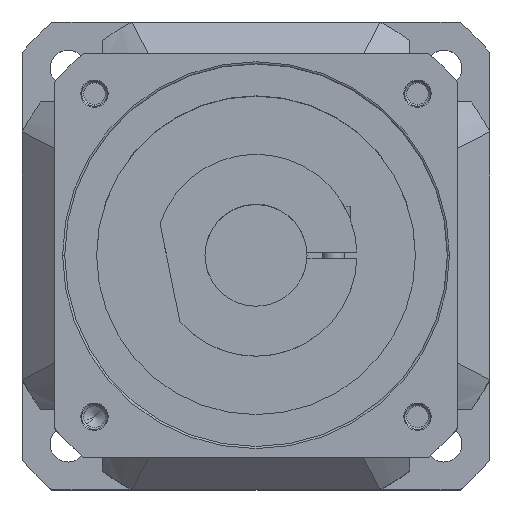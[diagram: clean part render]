
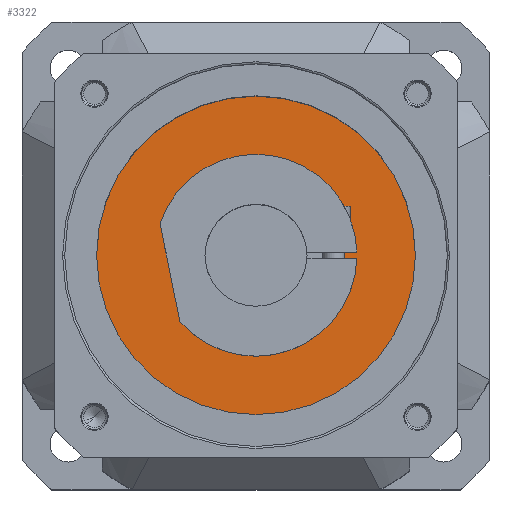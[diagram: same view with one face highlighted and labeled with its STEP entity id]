
A CAD part, top view. The second image highlights one B-rep face of the part: STEP entity #3322.
In plain terms, the highlighted planar face has unit normal (0, 0, 1) as drawn and (0, 1, 0) by its records, which use the part's own axes.
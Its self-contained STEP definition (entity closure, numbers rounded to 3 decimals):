
#1969=CARTESIAN_POINT('',(63.014,85.5,80.207));
#2002=CARTESIAN_POINT('',(80.207,85.5,63.014));
#2012=CARTESIAN_POINT('',(0.,85.5,0.));
#2013=DIRECTION('',(0.,1.,0.));
#2014=DIRECTION('',(0.,0.,1.));
#2015=AXIS2_PLACEMENT_3D('',#2012,#2013,#2014);
#2017=CARTESIAN_POINT('',(0.,85.5,0.));
#2018=DIRECTION('',(0.,1.,0.));
#2019=DIRECTION('',(0.,0.,-1.));
#2020=AXIS2_PLACEMENT_3D('',#2017,#2018,#2019);
#2022=DIRECTION('',(0.,0.,1.));
#2023=VECTOR('',#2022,4.193);
#2024=CARTESIAN_POINT('',(63.014,85.5,76.014));
#2025=LINE('',#2024,#2023);
#2026=CARTESIAN_POINT('',(0.,85.5,0.));
#2027=DIRECTION('',(0.,1.,0.));
#2028=DIRECTION('',(0.471,0.,0.882));
#2029=AXIS2_PLACEMENT_3D('',#2026,#2027,#2028);
#2031=DIRECTION('',(1.,0.,0.));
#2032=VECTOR('',#2031,96.);
#2033=CARTESIAN_POINT('',(-48.,85.5,90.));
#2034=LINE('',#2033,#2032);
#2035=CARTESIAN_POINT('',(0.,85.5,0.));
#2036=DIRECTION('',(0.,1.,0.));
#2037=DIRECTION('',(-0.618,0.,0.786));
#2038=AXIS2_PLACEMENT_3D('',#2035,#2036,#2037);
#2040=DIRECTION('',(0.,0.,-1.));
#2041=VECTOR('',#2040,4.193);
#2042=CARTESIAN_POINT('',(-63.014,85.5,80.207));
#2043=LINE('',#2042,#2041);
#2044=CARTESIAN_POINT('',(-76.014,85.5,76.014));
#2045=DIRECTION('',(0.,1.,0.));
#2046=DIRECTION('',(1.,0.,0.));
#2047=AXIS2_PLACEMENT_3D('',#2044,#2045,#2046);
#2049=DIRECTION('',(-1.,0.,0.));
#2050=VECTOR('',#2049,4.193);
#2051=CARTESIAN_POINT('',(-76.014,85.5,63.014));
#2052=LINE('',#2051,#2050);
#2053=CARTESIAN_POINT('',(0.,85.5,0.));
#2054=DIRECTION('',(0.,1.,0.));
#2055=DIRECTION('',(-0.882,0.,0.471));
#2056=AXIS2_PLACEMENT_3D('',#2053,#2054,#2055);
#2058=DIRECTION('',(0.,0.,1.));
#2059=VECTOR('',#2058,96.);
#2060=CARTESIAN_POINT('',(-90.,85.5,-48.));
#2061=LINE('',#2060,#2059);
#2062=CARTESIAN_POINT('',(0.,85.5,0.));
#2063=DIRECTION('',(0.,1.,0.));
#2064=DIRECTION('',(-0.786,0.,-0.618));
#2065=AXIS2_PLACEMENT_3D('',#2062,#2063,#2064);
#2067=DIRECTION('',(1.,0.,0.));
#2068=VECTOR('',#2067,4.193);
#2069=CARTESIAN_POINT('',(-80.207,85.5,-63.014));
#2070=LINE('',#2069,#2068);
#2071=CARTESIAN_POINT('',(-76.014,85.5,-76.014));
#2072=DIRECTION('',(0.,1.,0.));
#2073=DIRECTION('',(0.,0.,1.));
#2074=AXIS2_PLACEMENT_3D('',#2071,#2072,#2073);
#2076=DIRECTION('',(0.,0.,-1.));
#2077=VECTOR('',#2076,4.193);
#2078=CARTESIAN_POINT('',(-63.014,85.5,-76.014));
#2079=LINE('',#2078,#2077);
#2080=CARTESIAN_POINT('',(0.,85.5,0.));
#2081=DIRECTION('',(0.,1.,0.));
#2082=DIRECTION('',(-0.471,0.,-0.882));
#2083=AXIS2_PLACEMENT_3D('',#2080,#2081,#2082);
#2085=DIRECTION('',(-1.,0.,0.));
#2086=VECTOR('',#2085,96.);
#2087=CARTESIAN_POINT('',(48.,85.5,-90.));
#2088=LINE('',#2087,#2086);
#2089=CARTESIAN_POINT('',(0.,85.5,0.));
#2090=DIRECTION('',(0.,1.,0.));
#2091=DIRECTION('',(0.618,0.,-0.786));
#2092=AXIS2_PLACEMENT_3D('',#2089,#2090,#2091);
#2094=DIRECTION('',(0.,0.,1.));
#2095=VECTOR('',#2094,4.193);
#2096=CARTESIAN_POINT('',(63.014,85.5,-80.207));
#2097=LINE('',#2096,#2095);
#2098=CARTESIAN_POINT('',(76.014,85.5,-76.014));
#2099=DIRECTION('',(0.,1.,0.));
#2100=DIRECTION('',(-1.,0.,0.));
#2101=AXIS2_PLACEMENT_3D('',#2098,#2099,#2100);
#2103=DIRECTION('',(1.,0.,0.));
#2104=VECTOR('',#2103,4.193);
#2105=CARTESIAN_POINT('',(76.014,85.5,-63.014));
#2106=LINE('',#2105,#2104);
#2107=CARTESIAN_POINT('',(0.,85.5,0.));
#2108=DIRECTION('',(0.,1.,0.));
#2109=DIRECTION('',(0.882,0.,-0.471));
#2110=AXIS2_PLACEMENT_3D('',#2107,#2108,#2109);
#2112=DIRECTION('',(0.,0.,-1.));
#2113=VECTOR('',#2112,96.);
#2114=CARTESIAN_POINT('',(90.,85.5,48.));
#2115=LINE('',#2114,#2113);
#2116=CARTESIAN_POINT('',(0.,85.5,0.));
#2117=DIRECTION('',(0.,1.,0.));
#2118=DIRECTION('',(0.786,0.,0.618));
#2119=AXIS2_PLACEMENT_3D('',#2116,#2117,#2118);
#2121=DIRECTION('',(-1.,0.,0.));
#2122=VECTOR('',#2121,4.193);
#2123=CARTESIAN_POINT('',(80.207,85.5,63.014));
#2124=LINE('',#2123,#2122);
#2125=CARTESIAN_POINT('',(76.014,85.5,76.014));
#2126=DIRECTION('',(0.,1.,0.));
#2127=DIRECTION('',(0.,0.,-1.));
#2128=AXIS2_PLACEMENT_3D('',#2125,#2126,#2127);
#2452=CARTESIAN_POINT('',(-80.207,85.5,63.014));
#2485=CARTESIAN_POINT('',(-63.014,85.5,80.207));
#2593=CARTESIAN_POINT('',(-63.014,85.5,-80.207));
#2626=CARTESIAN_POINT('',(-80.207,85.5,-63.014));
#2716=CARTESIAN_POINT('',(80.207,85.5,-63.014));
#2749=CARTESIAN_POINT('',(63.014,85.5,-80.207));
#2839=CARTESIAN_POINT('',(-90.,85.5,-48.));
#2840=CARTESIAN_POINT('',(-90.,85.5,48.));
#2841=VERTEX_POINT('',#2839);
#2842=VERTEX_POINT('',#2840);
#2843=CARTESIAN_POINT('',(-48.,85.5,90.));
#2844=CARTESIAN_POINT('',(48.,85.5,90.));
#2845=VERTEX_POINT('',#2843);
#2846=VERTEX_POINT('',#2844);
#2847=CARTESIAN_POINT('',(90.,85.5,48.));
#2848=CARTESIAN_POINT('',(90.,85.5,-48.));
#2849=VERTEX_POINT('',#2847);
#2850=VERTEX_POINT('',#2848);
#2851=CARTESIAN_POINT('',(48.,85.5,-90.));
#2852=CARTESIAN_POINT('',(-48.,85.5,-90.));
#2853=VERTEX_POINT('',#2851);
#2854=VERTEX_POINT('',#2852);
#2949=CARTESIAN_POINT('',(0.,85.5,32.5));
#2950=CARTESIAN_POINT('',(0.,85.5,-32.5));
#2951=VERTEX_POINT('',#2949);
#2952=VERTEX_POINT('',#2950);
#2984=VERTEX_POINT('',#2716);
#2987=VERTEX_POINT('',#2749);
#2988=CARTESIAN_POINT('',(76.014,85.5,-63.014));
#2989=VERTEX_POINT('',#2988);
#2990=CARTESIAN_POINT('',(63.014,85.5,-76.014));
#2991=VERTEX_POINT('',#2990);
#2993=VERTEX_POINT('',#2593);
#2996=VERTEX_POINT('',#2626);
#2997=CARTESIAN_POINT('',(-63.014,85.5,-76.014));
#2998=VERTEX_POINT('',#2997);
#2999=CARTESIAN_POINT('',(-76.014,85.5,-63.014));
#3000=VERTEX_POINT('',#2999);
#3002=VERTEX_POINT('',#2452);
#3005=VERTEX_POINT('',#2485);
#3006=CARTESIAN_POINT('',(-76.014,85.5,63.014));
#3007=VERTEX_POINT('',#3006);
#3008=CARTESIAN_POINT('',(-63.014,85.5,76.014));
#3009=VERTEX_POINT('',#3008);
#3011=VERTEX_POINT('',#1969);
#3014=VERTEX_POINT('',#2002);
#3015=CARTESIAN_POINT('',(63.014,85.5,76.014));
#3016=VERTEX_POINT('',#3015);
#3017=CARTESIAN_POINT('',(76.014,85.5,63.014));
#3018=VERTEX_POINT('',#3017);
#3264=CARTESIAN_POINT('',(0.,85.5,0.));
#3265=DIRECTION('',(0.,-1.,0.));
#3266=DIRECTION('',(-1.,0.,0.));
#3267=AXIS2_PLACEMENT_3D('',#3264,#3265,#3266);
#3268=PLANE('',#3267);
#3269=ORIENTED_EDGE('',*,*,#3257,.T.);
#3270=ORIENTED_EDGE('',*,*,#3229,.F.);
#3272=ORIENTED_EDGE('',*,*,#3271,.F.);
#3274=ORIENTED_EDGE('',*,*,#3273,.F.);
#3276=ORIENTED_EDGE('',*,*,#3275,.T.);
#3278=ORIENTED_EDGE('',*,*,#3277,.T.);
#3280=ORIENTED_EDGE('',*,*,#3279,.T.);
#3282=ORIENTED_EDGE('',*,*,#3281,.F.);
#3284=ORIENTED_EDGE('',*,*,#3283,.F.);
#3286=ORIENTED_EDGE('',*,*,#3285,.F.);
#3288=ORIENTED_EDGE('',*,*,#3287,.T.);
#3290=ORIENTED_EDGE('',*,*,#3289,.T.);
#3292=ORIENTED_EDGE('',*,*,#3291,.T.);
#3294=ORIENTED_EDGE('',*,*,#3293,.F.);
#3296=ORIENTED_EDGE('',*,*,#3295,.F.);
#3298=ORIENTED_EDGE('',*,*,#3297,.F.);
#3300=ORIENTED_EDGE('',*,*,#3299,.T.);
#3302=ORIENTED_EDGE('',*,*,#3301,.T.);
#3304=ORIENTED_EDGE('',*,*,#3303,.T.);
#3306=ORIENTED_EDGE('',*,*,#3305,.F.);
#3308=ORIENTED_EDGE('',*,*,#3307,.F.);
#3309=ORIENTED_EDGE('',*,*,#3243,.F.);
#3311=ORIENTED_EDGE('',*,*,#3310,.T.);
#3313=ORIENTED_EDGE('',*,*,#3312,.T.);
#3314=EDGE_LOOP('',(#3269,#3270,#3272,#3274,#3276,#3278,#3280,#3282,#3284,#3286,
#3288,#3290,#3292,#3294,#3296,#3298,#3300,#3302,#3304,#3306,#3308,#3309,#3311,
#3313));
#3315=FACE_OUTER_BOUND('',#3314,.F.);
#3317=ORIENTED_EDGE('',*,*,#3316,.T.);
#3319=ORIENTED_EDGE('',*,*,#3318,.T.);
#3320=EDGE_LOOP('',(#3317,#3319));
#3321=FACE_BOUND('',#3320,.F.);
#3322=ADVANCED_FACE('',(#3315,#3321),#3268,.F.);
#2016=CIRCLE('',#2015,32.5);
#2021=CIRCLE('',#2020,32.5);
#2030=CIRCLE('',#2029,102.);
#2039=CIRCLE('',#2038,102.);
#2048=CIRCLE('',#2047,13.);
#2057=CIRCLE('',#2056,102.);
#2066=CIRCLE('',#2065,102.);
#2075=CIRCLE('',#2074,13.);
#2084=CIRCLE('',#2083,102.);
#2093=CIRCLE('',#2092,102.);
#2102=CIRCLE('',#2101,13.);
#2111=CIRCLE('',#2110,102.);
#2120=CIRCLE('',#2119,102.);
#2129=CIRCLE('',#2128,13.);
#3229=EDGE_CURVE('',#2846,#3011,#2030,.T.);
#3243=EDGE_CURVE('',#3014,#2849,#2120,.T.);
#3257=EDGE_CURVE('',#3016,#3011,#2025,.T.);
#3271=EDGE_CURVE('',#2845,#2846,#2034,.T.);
#3273=EDGE_CURVE('',#3005,#2845,#2039,.T.);
#3275=EDGE_CURVE('',#3005,#3009,#2043,.T.);
#3277=EDGE_CURVE('',#3009,#3007,#2048,.T.);
#3279=EDGE_CURVE('',#3007,#3002,#2052,.T.);
#3281=EDGE_CURVE('',#2842,#3002,#2057,.T.);
#3283=EDGE_CURVE('',#2841,#2842,#2061,.T.);
#3285=EDGE_CURVE('',#2996,#2841,#2066,.T.);
#3287=EDGE_CURVE('',#2996,#3000,#2070,.T.);
#3289=EDGE_CURVE('',#3000,#2998,#2075,.T.);
#3291=EDGE_CURVE('',#2998,#2993,#2079,.T.);
#3293=EDGE_CURVE('',#2854,#2993,#2084,.T.);
#3295=EDGE_CURVE('',#2853,#2854,#2088,.T.);
#3297=EDGE_CURVE('',#2987,#2853,#2093,.T.);
#3299=EDGE_CURVE('',#2987,#2991,#2097,.T.);
#3301=EDGE_CURVE('',#2991,#2989,#2102,.T.);
#3303=EDGE_CURVE('',#2989,#2984,#2106,.T.);
#3305=EDGE_CURVE('',#2850,#2984,#2111,.T.);
#3307=EDGE_CURVE('',#2849,#2850,#2115,.T.);
#3310=EDGE_CURVE('',#3014,#3018,#2124,.T.);
#3312=EDGE_CURVE('',#3018,#3016,#2129,.T.);
#3316=EDGE_CURVE('',#2951,#2952,#2016,.T.);
#3318=EDGE_CURVE('',#2952,#2951,#2021,.T.);
